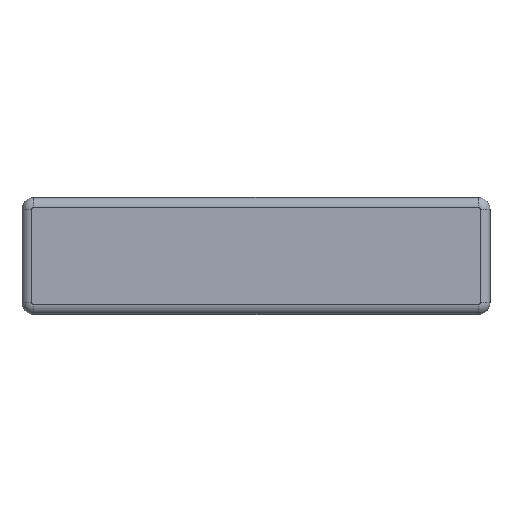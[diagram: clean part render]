
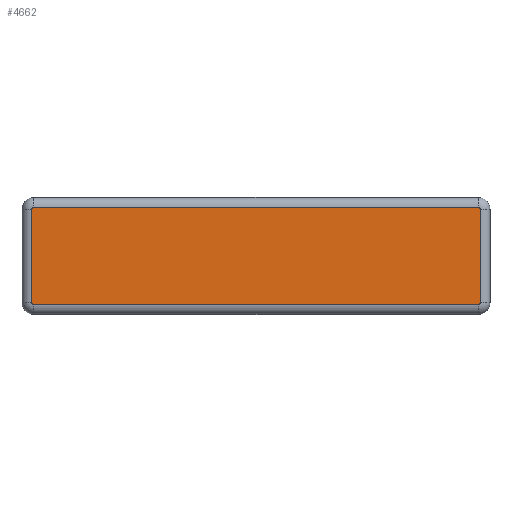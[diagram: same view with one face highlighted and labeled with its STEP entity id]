
A CAD part, top view. The second image highlights one B-rep face of the part: STEP entity #4662.
In plain terms, the highlighted planar face has unit normal (0, 0, 1).
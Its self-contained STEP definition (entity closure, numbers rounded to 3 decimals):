
#7 = EDGE_CURVE ( 'NONE', #250, #1602, #3260, .T. ) ;
#207 = VERTEX_POINT ( 'NONE', #1996 ) ;
#216 = ORIENTED_EDGE ( 'NONE', *, *, #1592, .T. ) ;
#240 = CARTESIAN_POINT ( 'NONE',  ( 0., -12.5, 0. ) ) ;
#250 = VERTEX_POINT ( 'NONE', #387 ) ;
#309 = DIRECTION ( 'NONE',  ( 0., 0., 1. ) ) ;
#387 = CARTESIAN_POINT ( 'NONE',  ( 57., 12.5, 0. ) ) ;
#550 = CIRCLE ( 'NONE', #3408, 0.5 ) ;
#579 = CARTESIAN_POINT ( 'NONE',  ( -57., 12., 0. ) ) ;
#689 = ORIENTED_EDGE ( 'NONE', *, *, #7, .T. ) ;
#736 = EDGE_LOOP ( 'NONE', ( #3529, #689, #1965, #216, #1190, #3645, #4514, #4942 ) ) ;
#950 = CARTESIAN_POINT ( 'NONE',  ( 57., 12., 0. ) ) ;
#980 = AXIS2_PLACEMENT_3D ( 'NONE', #2686, #309, #1095 ) ;
#1008 = VERTEX_POINT ( 'NONE', #1431 ) ;
#1043 = DIRECTION ( 'NONE',  ( 1., 0., 0. ) ) ;
#1055 = EDGE_CURVE ( 'NONE', #1008, #4980, #3785, .T. ) ;
#1095 = DIRECTION ( 'NONE',  ( 0., -1., 0. ) ) ;
#1190 = ORIENTED_EDGE ( 'NONE', *, *, #1055, .F. ) ;
#1379 = LINE ( 'NONE', #240, #4323 ) ;
#1431 = CARTESIAN_POINT ( 'NONE',  ( -57., -12.5, 0. ) ) ;
#1448 = DIRECTION ( 'NONE',  ( 0., 1., 0. ) ) ;
#1523 = CARTESIAN_POINT ( 'NONE',  ( -57.5, -12., 0. ) ) ;
#1592 = EDGE_CURVE ( 'NONE', #2867, #4980, #2397, .T. ) ;
#1602 = VERTEX_POINT ( 'NONE', #3728 ) ;
#1693 = CARTESIAN_POINT ( 'NONE',  ( 57.5, 0., 0. ) ) ;
#1718 = AXIS2_PLACEMENT_3D ( 'NONE', #950, #3717, #2546 ) ;
#1770 = DIRECTION ( 'NONE',  ( 0., 0., -1. ) ) ;
#1965 = ORIENTED_EDGE ( 'NONE', *, *, #4210, .F. ) ;
#1996 = CARTESIAN_POINT ( 'NONE',  ( 57., -12.5, 0. ) ) ;
#2181 = EDGE_CURVE ( 'NONE', #1008, #207, #1379, .T. ) ;
#2366 = VECTOR ( 'NONE', #4709, 1000. ) ;
#2397 = LINE ( 'NONE', #4422, #2366 ) ;
#2462 = CARTESIAN_POINT ( 'NONE',  ( 0., 12.5, 0. ) ) ;
#2521 = VERTEX_POINT ( 'NONE', #3986 ) ;
#2546 = DIRECTION ( 'NONE',  ( 0., 1., 0. ) ) ;
#2579 = VERTEX_POINT ( 'NONE', #4002 ) ;
#2598 = CARTESIAN_POINT ( 'NONE',  ( -57., -12., 0. ) ) ;
#2634 = CARTESIAN_POINT ( 'NONE',  ( 57., -12., 0. ) ) ;
#2686 = CARTESIAN_POINT ( 'NONE',  ( 0., 0., 0. ) ) ;
#2817 = VECTOR ( 'NONE', #4012, 1000. ) ;
#2861 = AXIS2_PLACEMENT_3D ( 'NONE', #579, #1770, #3338 ) ;
#2867 = VERTEX_POINT ( 'NONE', #3356 ) ;
#2886 = AXIS2_PLACEMENT_3D ( 'NONE', #2598, #3770, #5020 ) ;
#2922 = EDGE_CURVE ( 'NONE', #2521, #207, #550, .T. ) ;
#2943 = CIRCLE ( 'NONE', #1718, 0.5 ) ;
#3014 = DIRECTION ( 'NONE',  ( 0., 0., -1. ) ) ;
#3260 = LINE ( 'NONE', #2462, #2817 ) ;
#3338 = DIRECTION ( 'NONE',  ( 0., -1., 0. ) ) ;
#3356 = CARTESIAN_POINT ( 'NONE',  ( -57.5, 12., 0. ) ) ;
#3408 = AXIS2_PLACEMENT_3D ( 'NONE', #2634, #3014, #1448 ) ;
#3529 = ORIENTED_EDGE ( 'NONE', *, *, #4475, .F. ) ;
#3613 = VECTOR ( 'NONE', #3999, 1000. ) ;
#3645 = ORIENTED_EDGE ( 'NONE', *, *, #2181, .T. ) ;
#3717 = DIRECTION ( 'NONE',  ( 0., 0., -1. ) ) ;
#3728 = CARTESIAN_POINT ( 'NONE',  ( -57., 12.5, 0. ) ) ;
#3770 = DIRECTION ( 'NONE',  ( 0., 0., -1. ) ) ;
#3785 = CIRCLE ( 'NONE', #2886, 0.5 ) ;
#3815 = PLANE ( 'NONE',  #980 ) ;
#3986 = CARTESIAN_POINT ( 'NONE',  ( 57.5, -12., 0. ) ) ;
#3999 = DIRECTION ( 'NONE',  ( 0., 1., 0. ) ) ;
#4002 = CARTESIAN_POINT ( 'NONE',  ( 57.5, 12., 0. ) ) ;
#4012 = DIRECTION ( 'NONE',  ( -1., 0., 0. ) ) ;
#4026 = LINE ( 'NONE', #1693, #3613 ) ;
#4210 = EDGE_CURVE ( 'NONE', #2867, #1602, #4420, .T. ) ;
#4323 = VECTOR ( 'NONE', #1043, 1000. ) ;
#4420 = CIRCLE ( 'NONE', #2861, 0.5 ) ;
#4422 = CARTESIAN_POINT ( 'NONE',  ( -57.5, 0., 0. ) ) ;
#4475 = EDGE_CURVE ( 'NONE', #250, #2579, #2943, .T. ) ;
#4514 = ORIENTED_EDGE ( 'NONE', *, *, #2922, .F. ) ;
#4633 = FACE_OUTER_BOUND ( 'NONE', #736, .T. ) ;
#4662 = ADVANCED_FACE ( 'NONE', ( #4633 ), #3815, .T. ) ;
#4704 = EDGE_CURVE ( 'NONE', #2521, #2579, #4026, .T. ) ;
#4709 = DIRECTION ( 'NONE',  ( 0., -1., 0. ) ) ;
#4942 = ORIENTED_EDGE ( 'NONE', *, *, #4704, .T. ) ;
#4980 = VERTEX_POINT ( 'NONE', #1523 ) ;
#5020 = DIRECTION ( 'NONE',  ( 0., -1., 0. ) ) ;
